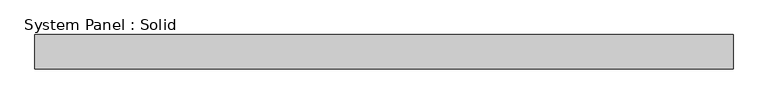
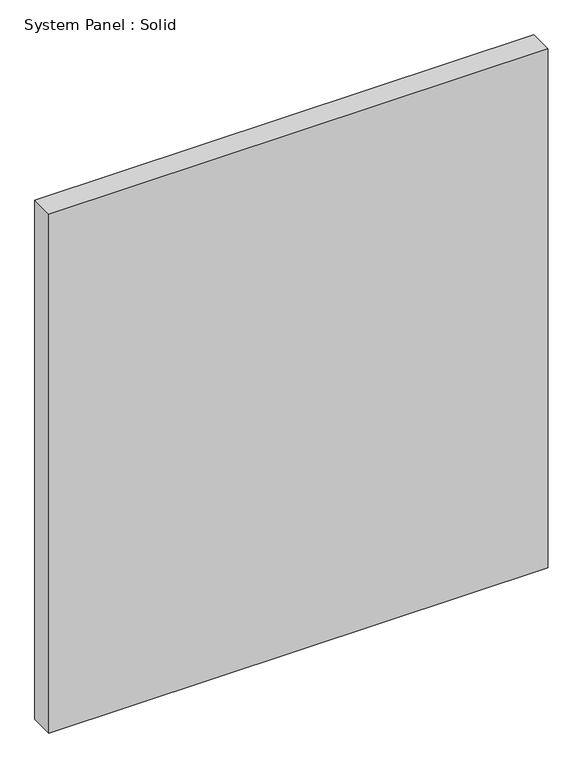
"""IFC4 building model written with IfcOpenShell, lengths in millimetres: plate geometry, System Panel : Solid."""

from ifc_helpers import new_model, si_unit, origin, origin_with_axes, place, context, project, spatial, polyline, outline, extrude, source, transform, mapped, element, save


def system_panel_solid_cebfb451(model_context):
    return source(origin(), model_context, "Body", "SweptSolid", [
        extrude(outline(polyline([(650.0467279, -19.05), (-650.0467279, -19.05), (-650.0467279, 44.45), (650.0467279, 44.45), (650.0467279, -19.05)])), origin_with_axes(), (0.0, 0.0, 1.0), 1428.75),
    ])


if __name__ == "__main__":
    model = new_model("IFC4")
    model_context = context("Model", 3, world=origin())
    ifc_project = project(units=[si_unit("LENGTHUNIT", "METRE", prefix="MILLI")], contexts=[model_context])
    site = spatial("IfcSite", under=ifc_project)
    building = spatial("IfcBuilding", under=site)
    placement = place(None, origin())
    system_panel_solid_shape = system_panel_solid_cebfb451(model_context)
    element("IfcPlate", 1, ObjectType="System Panel : Solid", at=placement, inside=building, context=model_context, shape_type="MappedRepresentation", body=[
        mapped(system_panel_solid_shape, transform((0.0, 0.0, 0.0), x_axis=(1.0, 0.0, 0.0), y_axis=(0.0, 1.0, 0.0), z_axis=(0.0, 0.0, 1.0))),
    ])
    save(model, "model.ifc")
